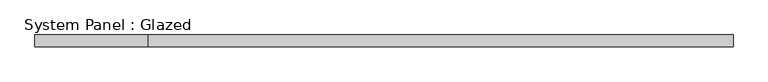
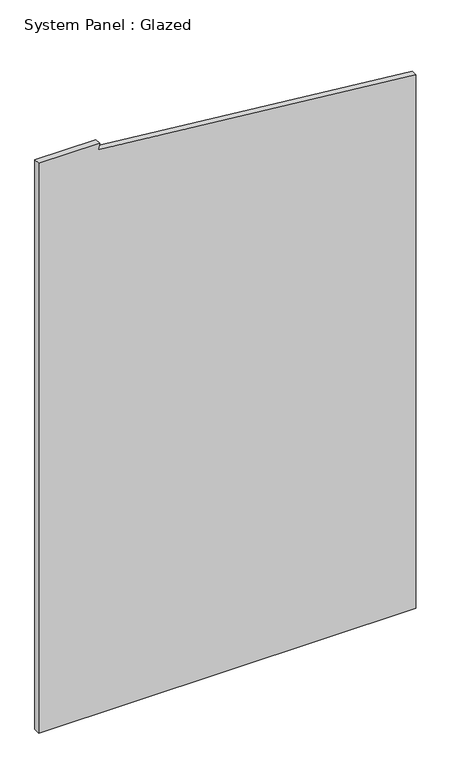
"""IFC4 building model written with IfcOpenShell, lengths in millimetres: plate geometry, System Panel : Glazed."""

from ifc_helpers import new_model, si_unit, frame, origin, place, context, project, spatial, polyline, outline, extrude, source, transform, mapped, element, save


def system_panel_glazed_ad60b717(model_context):
    return source(origin(), model_context, "Body", "SweptSolid", [
        extrude(outline(polyline([(0.0, -735.8695652), (0.0, 735.8695652), (2200.6907062, 735.8695652), (2325.2508557, -502.9218665), (2350.0, -497.9196032), (2350.0, -735.8695652), (0.0, -735.8695652)])), frame((0.0, 24.5, 0.0), z_axis=(0.0, 1.0, 0.0), x_axis=(0.0, 0.0, 1.0)), (0.0, 0.0, 1.0), 25.0),
    ])


if __name__ == "__main__":
    model = new_model("IFC4")
    model_context = context("Model", 3, world=origin())
    ifc_project = project(units=[si_unit("LENGTHUNIT", "METRE", prefix="MILLI")], contexts=[model_context])
    site = spatial("IfcSite", under=ifc_project)
    building = spatial("IfcBuilding", under=site)
    placement = place(None, origin())
    system_panel_glazed_shape = system_panel_glazed_ad60b717(model_context)
    element("IfcPlate", 1, ObjectType="System Panel : Glazed", at=placement, inside=building, context=model_context, shape_type="MappedRepresentation", body=[
        mapped(system_panel_glazed_shape, transform((0.0, 0.0, 0.0), x_axis=(1.0, 0.0, 0.0), y_axis=(0.0, 1.0, 0.0), z_axis=(0.0, 0.0, 1.0))),
    ])
    save(model, "model.ifc")
